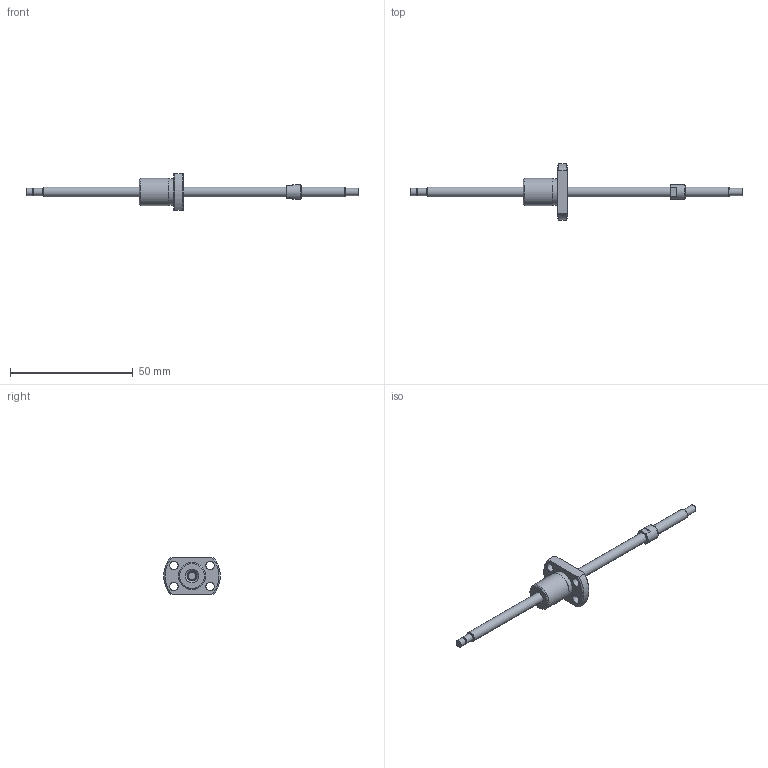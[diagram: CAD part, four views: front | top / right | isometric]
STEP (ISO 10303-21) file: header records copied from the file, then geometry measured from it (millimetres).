
FILE_DESCRIPTION(/* description */ ('STEP AP214'),/* implementation_level */ '2;1');
FILE_NAME(/* name */ 'NSGF0401Z-096R135C3-0-T-S-T-B-(39-S)',/* time_stamp */ '2026-08-24T20:02:25+02:00',/* author */ ('License CC BY-ND 4.0'),/* organization */ ('CADENAS'),/* preprocessor_version */ 'ST-DEVELOPER v20',/* originating_system */ 'PARTsolutions',/* authorisation */ ' ');
FILE_SCHEMA (('AUTOMOTIVE_DESIGN {1 0 10303 214 3 1 1}'));
Length unit declared in the file: millimetre
Products named in the file (3): NSGF0401Z-096R135C3-0-T-S-T-B-(39-S); NSG0401Z-96R13518_(T-S_T-B_2)_2; NSGF0401Z-23R23C3-0_(__2.5_1_S)-1
Assembly tree (2 placements, depth 2):
  NSGF0401Z-096R135C3-0-T-S-T-B-(39-S)
    NSG0401Z-96R13518_(T-S_T-B_2)_2
    NSGF0401Z-23R23C3-0_(__2.5_1_S)-1
Bounding box: 135 x 22.93 x 15 mm (x, y, z)
Volume: 3746.9 mm3; surface area: 3400.8 mm2
Topology: 2 solids, 2 shells, 45 faces, 95 edges, 62 vertices
Faces by surface type: plane 18, cylinder 16, cone 9, torus 2
Full cylindrical faces by diameter (mm): 2.7 x1, 3 x3, 3.4 x4, 4 x3, 6 x1, 10.75 x1, 11 x1
Entity records: 1185 total; most frequent: DIRECTION 204, CARTESIAN_POINT 200, ORIENTED_EDGE 140, AXIS2_PLACEMENT_3D 94, EDGE_LOOP 84, FACE_BOUND 84, EDGE_CURVE 70, VERTEX_POINT 58
